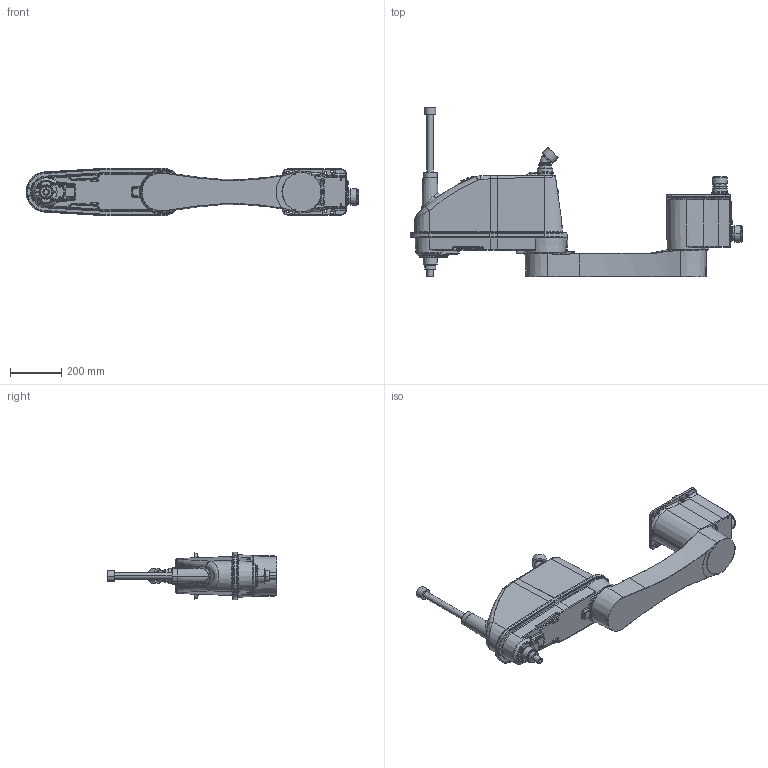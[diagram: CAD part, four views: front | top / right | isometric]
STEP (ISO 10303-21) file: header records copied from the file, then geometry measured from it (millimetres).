
FILE_DESCRIPTION((''),'2;1');
FILE_NAME('THE1000-T_3D_ASM','2025-10-22T11:10:20',('15097'),(''),'CREO PARAMETRIC BY PTC INC, 2020454','CREO PARAMETRIC BY PTC INC, 2020454','');
FILE_SCHEMA(('AUTOMOTIVE_DESIGN { 1 0 10303 214 1 1 1 1 }'));
Products named in the file (5): THE800-T_BASE_ASM2; THE1000-T_1STARM_HP2; THE800-T_2ND_ARM3; THE800-T_BALL_SCREW; THE1000-T_3D_ASM
Assembly tree (4 placements, depth 2):
  THE1000-T_3D_ASM
    THE800-T_BASE_ASM2
    THE1000-T_1STARM_HP2
    THE800-T_2ND_ARM3
    THE800-T_BALL_SCREW
Bounding box: 1301 x 665 x 188 mm (x, y, z)
Volume: 17687911.9 mm3; surface area: 1973718.2 mm2
Topology: 4 solids, 36 shells, 3191 faces, 7567 edges, 4694 vertices
Faces by surface type: plane 1197, cylinder 1136, bspline 334, torus 268, cone 189, sphere 63, revolution 2, extrusion 2
Entity records: 126060 total; most frequent: CARTESIAN_POINT 38504, DIRECTION 15159, ORIENTED_EDGE 15002, EDGE_CURVE 7501, AXIS2_PLACEMENT_3D 5819, VERTEX_POINT 4670, EDGE_LOOP 3599, VECTOR 3504
